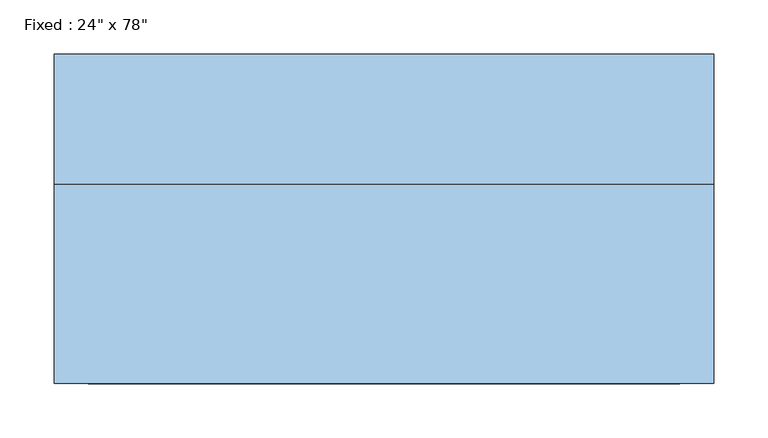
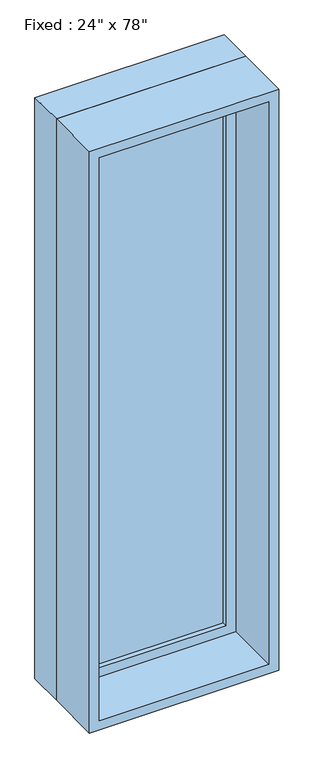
"""IFC4 building model written with IfcOpenShell, lengths in millimetres: window geometry."""

from ifc_helpers import new_model, si_unit, frame, origin, place, context, project, spatial, polyline, outline, extrude, source, transform, mapped, element, save


def window_ca6665d5(model_context):
    return source(origin(), model_context, "Body", "SweptSolid", [
        extrude(outline(polyline([(203.2, 47.625), (-279.4, 47.625), (-279.4, 60.325), (203.2, 60.325), (203.2, 47.625)])), frame((0.0, 0.0, 368.3), z_axis=(0.0, 0.0, 1.0), x_axis=(1.0, 0.0, 0.0)), (0.0, 0.0, 1.0), 1854.2),
        extrude(outline(polyline([(2266.95, -323.85), (323.85, -323.85), (323.85, 247.65), (2266.95, 247.65), (2266.95, -323.85)]), holes=[polyline([(2222.5, -279.4), (2222.5, 203.2), (368.3, 203.2), (368.3, -279.4), (2222.5, -279.4)])]), frame((0.0, 31.75, 0.0), z_axis=(0.0, 1.0, 0.0), x_axis=(0.0, 0.0, 1.0)), (0.0, 0.0, 1.0), 44.45),
        extrude(outline(polyline([(2286.0, -342.9), (304.8, -342.9), (304.8, 266.7), (2286.0, 266.7), (2286.0, -342.9)]), holes=[polyline([(2254.25, -311.15), (2254.25, 234.95), (336.55, 234.95), (336.55, -311.15), (2254.25, -311.15)])]), frame((0.0, -152.4, 0.0), z_axis=(0.0, 1.0, 0.0), x_axis=(0.0, 0.0, 1.0)), (0.0, 0.0, 1.0), 184.15),
        extrude(outline(polyline([(2286.0, 266.7), (2286.0, -342.9), (304.8, -342.9), (304.8, 266.7), (2286.0, 266.7)]), holes=[polyline([(2266.95, 247.65), (323.85, 247.65), (323.85, -323.85), (2266.95, -323.85), (2266.95, 247.65)])]), frame((0.0, 31.75, 0.0), z_axis=(0.0, 1.0, 0.0), x_axis=(0.0, 0.0, 1.0)), (0.0, 0.0, 1.0), 120.65),
    ])


if __name__ == "__main__":
    model = new_model("IFC4")
    model_context = context("Model", 3, world=origin())
    ifc_project = project(units=[si_unit("LENGTHUNIT", "METRE", prefix="MILLI")], contexts=[model_context])
    site = spatial("IfcSite", under=ifc_project)
    building = spatial("IfcBuilding", under=site)
    placement = place(None, origin())
    window_shape = window_ca6665d5(model_context)
    element("IfcWindow", 1, ObjectType="Fixed : 24\" x 78\"", at=placement, inside=building, context=model_context, shape_type="MappedRepresentation", body=[
        mapped(window_shape, transform((0.0, 0.0, 0.0), x_axis=(1.0, 0.0, 0.0), y_axis=(0.0, 1.0, 0.0), z_axis=(0.0, 0.0, 1.0))),
    ])
    save(model, "model.ifc")
